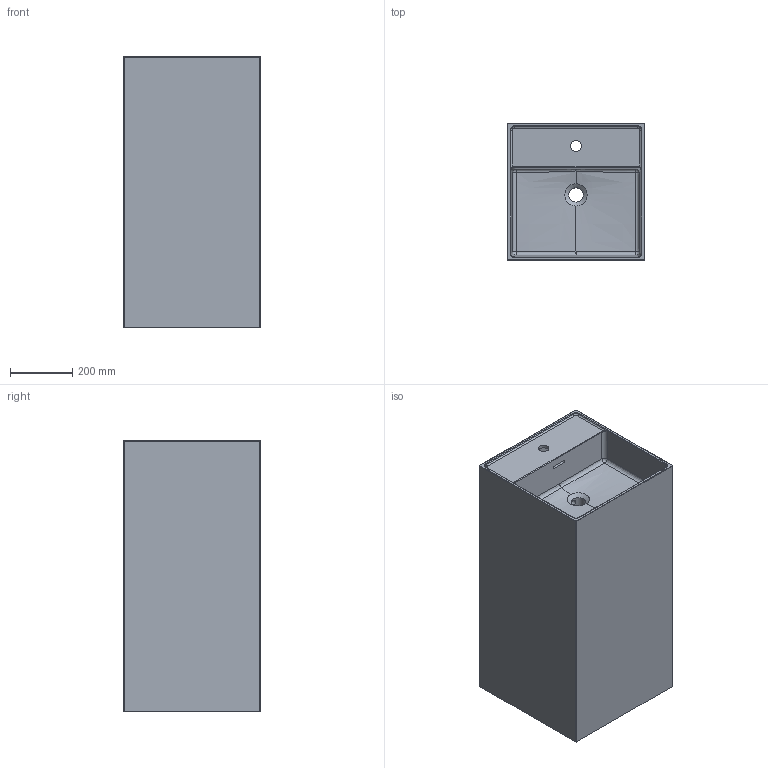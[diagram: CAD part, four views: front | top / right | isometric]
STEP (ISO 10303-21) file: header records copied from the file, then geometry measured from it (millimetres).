
FILE_DESCRIPTION(/* description */ (''),/* implementation_level */ '2;1');
FILE_NAME(/* name */ '18-017_C1157B.stp',/* time_stamp */ '2018-06-21T09:17:49+02:00',/* author */ (''),/* organization */ (''),/* preprocessor_version */ 'ST-DEVELOPER v15',/* originating_system */ 'SIEMENS PLM Software NX 8.5',/* authorisation */ '');
FILE_SCHEMA (('AUTOMOTIVE_DESIGN { 1 0 10303 214 3 1 1 1 }'));
Length unit declared in the file: millimetre
Products named in the file (1): Robe17607263nuho
Bounding box: 440 x 440 x 870 mm (x, y, z)
Volume: 26639692.9 mm3; surface area: 3365951.7 mm2
Topology: 1 solids, 1 shells, 249 faces, 595 edges, 331 vertices
Faces by surface type: bspline 112, cylinder 68, plane 43, sphere 12, torus 10, cone 4
Full cylindrical faces by diameter (mm): 20 x2, 35 x1, 46 x1
Entity records: 17540 total; most frequent: CARTESIAN_POINT 12575, ORIENTED_EDGE 1132, DIRECTION 904, EDGE_CURVE 566, AXIS2_PLACEMENT_3D 383, VERTEX_POINT 326, EDGE_LOOP 262, ADVANCED_FACE 249
